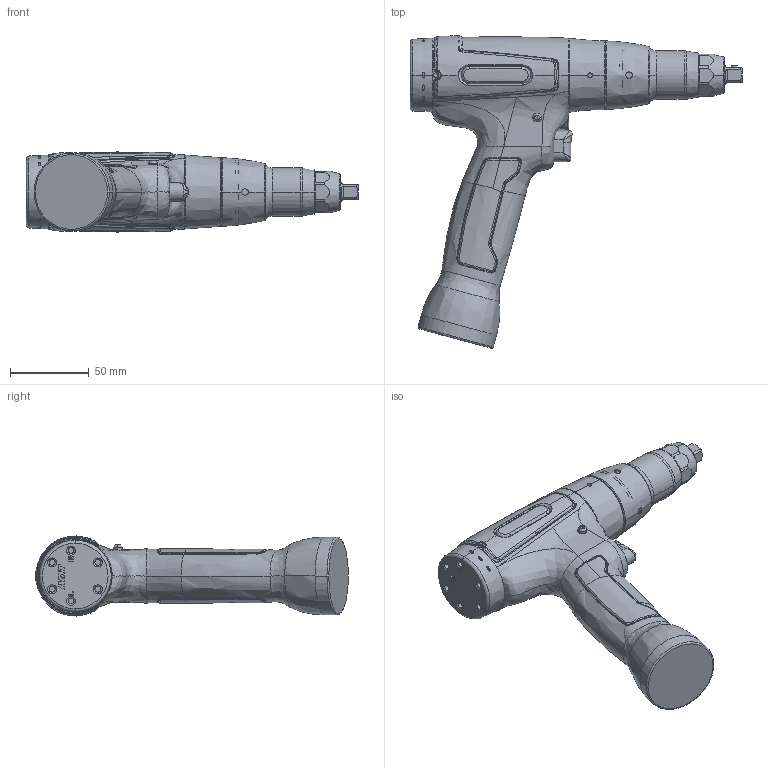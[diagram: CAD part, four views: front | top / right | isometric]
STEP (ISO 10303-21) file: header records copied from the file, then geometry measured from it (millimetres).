
FILE_DESCRIPTION (( 'STEP AP214' ), '1' );
FILE_NAME ('70502144_PSX1006ZV38.STEP', '2022-10-28T13:41:58', ( '' ), ( '' ), 'SwSTEP 2.0', 'SolidWorks 2020', '' );
FILE_SCHEMA (( 'AUTOMOTIVE_DESIGN' ));
Length unit declared in the file: millimetre
Products named in the file (4): 70058298; 70502144_PSX1006ZV38; 70086935; 70502145
Assembly tree (3 placements, depth 2):
  70502144_PSX1006ZV38
    70058298
    70502145
    70086935
Bounding box: 210.8 x 198.49 x 50.81 mm (x, y, z)
Volume: 502443.2 mm3; surface area: 69957.7 mm2
Topology: 3 solids, 3 shells, 832 faces, 2086 edges, 1296 vertices
Faces by surface type: bspline 346, plane 186, cylinder 175, cone 90, torus 31, sphere 4
Entity records: 60859 total; most frequent: CARTESIAN_POINT 41457, ORIENTED_EDGE 4164, DIRECTION 2728, EDGE_CURVE 2082, VERTEX_POINT 1296, AXIS2_PLACEMENT_3D 1070, B_SPLINE_CURVE_WITH_KNOTS 905, EDGE_LOOP 878
